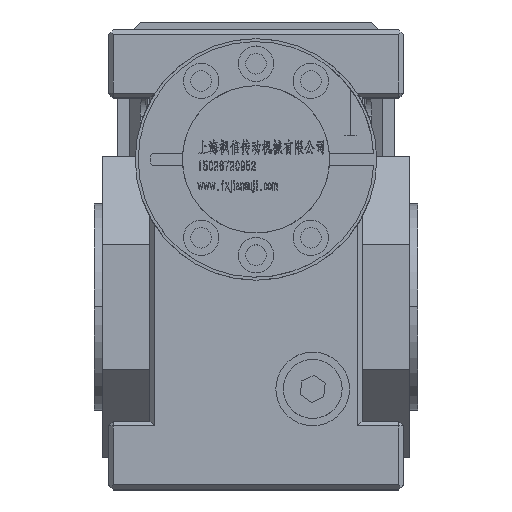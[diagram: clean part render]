
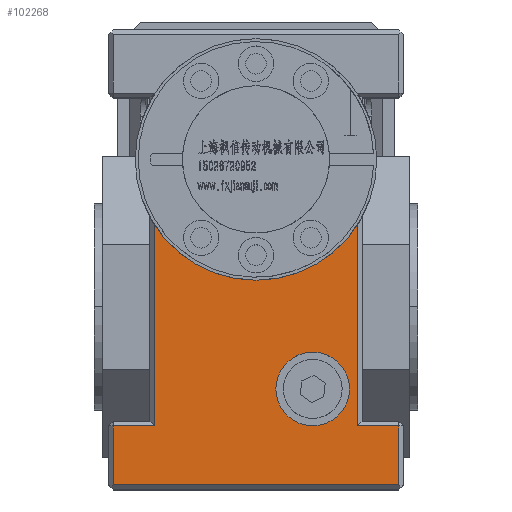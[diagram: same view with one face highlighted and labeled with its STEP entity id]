
A CAD part, top view. The second image highlights one B-rep face of the part: STEP entity #102268.
In plain terms, the highlighted planar face has unit normal (0, 0, 1).
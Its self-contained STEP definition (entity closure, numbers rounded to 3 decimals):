
#1628 = CARTESIAN_POINT ( 'NONE',  ( -48.5, -40.5, 68.5 ) ) ;
#4700 = AXIS2_PLACEMENT_3D ( 'NONE', #44224, #28175, #95587 ) ;
#5384 = CARTESIAN_POINT ( 'NONE',  ( 50., -40.5, 68.5 ) ) ;
#5868 = VERTEX_POINT ( 'NONE', #66543 ) ;
#7682 = VERTEX_POINT ( 'NONE', #51645 ) ;
#7820 = FACE_OUTER_BOUND ( 'NONE', #78986, .T. ) ;
#7984 = ORIENTED_EDGE ( 'NONE', *, *, #65891, .T. ) ;
#8213 = CARTESIAN_POINT ( 'NONE',  ( 50., -60.5, 68.5 ) ) ;
#9107 = VERTEX_POINT ( 'NONE', #89082 ) ;
#9375 = ORIENTED_EDGE ( 'NONE', *, *, #27041, .T. ) ;
#11581 = VECTOR ( 'NONE', #72462, 1000. ) ;
#12218 = DIRECTION ( 'NONE',  ( 0., -1., 0. ) ) ;
#12762 = DIRECTION ( 'NONE',  ( 0., 0., 1. ) ) ;
#14198 = LINE ( 'NONE', #5384, #55875 ) ;
#14907 = LINE ( 'NONE', #96768, #11581 ) ;
#17023 = DIRECTION ( 'NONE',  ( 1., 0., 0. ) ) ;
#19467 = VECTOR ( 'NONE', #12218, 1000. ) ;
#20473 = EDGE_CURVE ( 'NONE', #90575, #9107, #14198, .T. ) ;
#22190 = CIRCLE ( 'NONE', #92710, 12.5 ) ;
#22422 = DIRECTION ( 'NONE',  ( 0., -1., 0. ) ) ;
#23338 = LINE ( 'NONE', #107377, #23458 ) ;
#23458 = VECTOR ( 'NONE', #82528, 1000. ) ;
#23482 = CARTESIAN_POINT ( 'NONE',  ( -34.5, -39., 68.5 ) ) ;
#24354 = CARTESIAN_POINT ( 'NONE',  ( -34.5, -40.5, 68.5 ) ) ;
#24768 = CARTESIAN_POINT ( 'NONE',  ( -48.5, -60.5, 68.5 ) ) ;
#24804 = ORIENTED_EDGE ( 'NONE', *, *, #39083, .T. ) ;
#24863 = ORIENTED_EDGE ( 'NONE', *, *, #49523, .T. ) ;
#27041 = EDGE_CURVE ( 'NONE', #7682, #79358, #64989, .T. ) ;
#27193 = AXIS2_PLACEMENT_3D ( 'NONE', #92909, #90716, #59201 ) ;
#28175 = DIRECTION ( 'NONE',  ( 0., 0., 1. ) ) ;
#29472 = CARTESIAN_POINT ( 'NONE',  ( 48.5, -40.5, 68.5 ) ) ;
#32118 = EDGE_CURVE ( 'NONE', #9107, #59116, #23338, .T. ) ;
#32293 = EDGE_CURVE ( 'NONE', #7682, #59116, #69191, .T. ) ;
#38190 = ORIENTED_EDGE ( 'NONE', *, *, #32293, .F. ) ;
#39083 = EDGE_CURVE ( 'NONE', #79358, #92203, #14907, .T. ) ;
#41551 = PLANE ( 'NONE',  #27193 ) ;
#41590 = CARTESIAN_POINT ( 'NONE',  ( -48.5, 94., 68.5 ) ) ;
#41856 = VERTEX_POINT ( 'NONE', #24768 ) ;
#43548 = ORIENTED_EDGE ( 'NONE', *, *, #91774, .T. ) ;
#44224 = CARTESIAN_POINT ( 'NONE',  ( 19.253, -27.925, 68.5 ) ) ;
#45419 = CARTESIAN_POINT ( 'NONE',  ( 0., 50., 68.5 ) ) ;
#45541 = CARTESIAN_POINT ( 'NONE',  ( 34.5, 27.847, 68.5 ) ) ;
#45764 = DIRECTION ( 'NONE',  ( -1., 0., 0. ) ) ;
#49008 = VECTOR ( 'NONE', #17023, 1000. ) ;
#49523 = EDGE_CURVE ( 'NONE', #5868, #90575, #93310, .T. ) ;
#50197 = LINE ( 'NONE', #8213, #49008 ) ;
#51292 = DIRECTION ( 'NONE',  ( 0., 1., 0. ) ) ;
#51645 = CARTESIAN_POINT ( 'NONE',  ( -34.5, 27.847, 68.5 ) ) ;
#53776 = ORIENTED_EDGE ( 'NONE', *, *, #80443, .F. ) ;
#54771 = DIRECTION ( 'NONE',  ( 0., 1., 0. ) ) ;
#55875 = VECTOR ( 'NONE', #45764, 1000. ) ;
#56118 = ORIENTED_EDGE ( 'NONE', *, *, #32118, .T. ) ;
#59116 = VERTEX_POINT ( 'NONE', #45541 ) ;
#59201 = DIRECTION ( 'NONE',  ( -1., 0., 0. ) ) ;
#63391 = EDGE_LOOP ( 'NONE', ( #53776, #108939 ) ) ;
#64989 = LINE ( 'NONE', #23482, #91064 ) ;
#65891 = EDGE_CURVE ( 'NONE', #41856, #5868, #50197, .T. ) ;
#66303 = CARTESIAN_POINT ( 'NONE',  ( 6.753, -27.925, 68.5 ) ) ;
#66543 = CARTESIAN_POINT ( 'NONE',  ( 48.5, -60.5, 68.5 ) ) ;
#69191 = CIRCLE ( 'NONE', #97403, 41. ) ;
#70990 = CARTESIAN_POINT ( 'NONE',  ( 31.753, -27.925, 68.5 ) ) ;
#71175 = VERTEX_POINT ( 'NONE', #66303 ) ;
#72462 = DIRECTION ( 'NONE',  ( -1., 0., 0. ) ) ;
#73038 = CARTESIAN_POINT ( 'NONE',  ( 19.253, -27.925, 68.5 ) ) ;
#78986 = EDGE_LOOP ( 'NONE', ( #43548, #7984, #24863, #106224, #56118, #38190, #9375, #24804 ) ) ;
#79350 = EDGE_CURVE ( 'NONE', #71175, #106233, #22190, .T. ) ;
#79358 = VERTEX_POINT ( 'NONE', #24354 ) ;
#80443 = EDGE_CURVE ( 'NONE', #106233, #71175, #105290, .T. ) ;
#82528 = DIRECTION ( 'NONE',  ( 0., 1., 0. ) ) ;
#83586 = LINE ( 'NONE', #41590, #19467 ) ;
#85284 = VECTOR ( 'NONE', #51292, 1000. ) ;
#85576 = CARTESIAN_POINT ( 'NONE',  ( 48.5, -39., 68.5 ) ) ;
#89065 = DIRECTION ( 'NONE',  ( 0., 0., 1. ) ) ;
#89082 = CARTESIAN_POINT ( 'NONE',  ( 34.5, -40.5, 68.5 ) ) ;
#90575 = VERTEX_POINT ( 'NONE', #29472 ) ;
#90716 = DIRECTION ( 'NONE',  ( 0., 0., -1. ) ) ;
#91064 = VECTOR ( 'NONE', #22422, 1000. ) ;
#91774 = EDGE_CURVE ( 'NONE', #92203, #41856, #83586, .T. ) ;
#92203 = VERTEX_POINT ( 'NONE', #1628 ) ;
#92710 = AXIS2_PLACEMENT_3D ( 'NONE', #73038, #89065, #106716 ) ;
#92909 = CARTESIAN_POINT ( 'NONE',  ( 50., 94., 68.5 ) ) ;
#93310 = LINE ( 'NONE', #85576, #85284 ) ;
#95587 = DIRECTION ( 'NONE',  ( 1., 0., 0. ) ) ;
#96768 = CARTESIAN_POINT ( 'NONE',  ( -50., -40.5, 68.5 ) ) ;
#97403 = AXIS2_PLACEMENT_3D ( 'NONE', #45419, #12762, #54771 ) ;
#99553 = FACE_BOUND ( 'NONE', #63391, .T. ) ;
#102268 = ADVANCED_FACE ( 'NONE', ( #99553, #7820 ), #41551, .F. ) ;
#105290 = CIRCLE ( 'NONE', #4700, 12.5 ) ;
#106224 = ORIENTED_EDGE ( 'NONE', *, *, #20473, .T. ) ;
#106233 = VERTEX_POINT ( 'NONE', #70990 ) ;
#106716 = DIRECTION ( 'NONE',  ( 1., 0., 0. ) ) ;
#107377 = CARTESIAN_POINT ( 'NONE',  ( 34.5, 30.379, 68.5 ) ) ;
#108939 = ORIENTED_EDGE ( 'NONE', *, *, #79350, .F. ) ;
